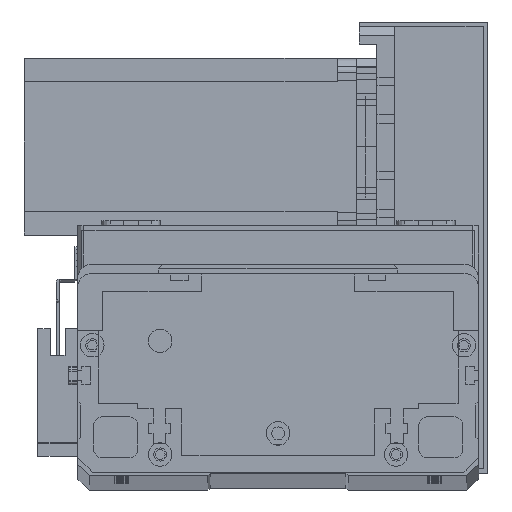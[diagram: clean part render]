
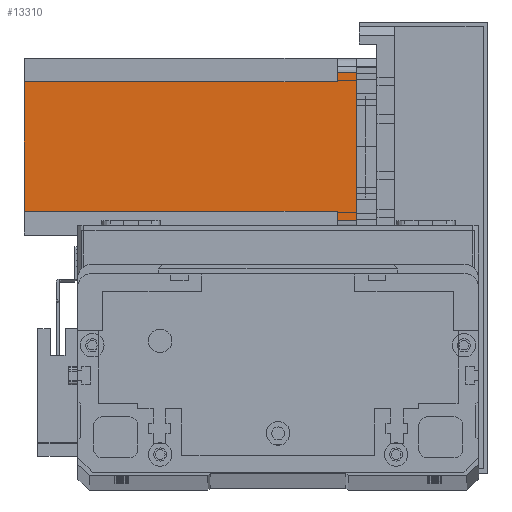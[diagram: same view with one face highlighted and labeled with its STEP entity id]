
A CAD part, top view. The second image highlights one B-rep face of the part: STEP entity #13310.
In plain terms, the highlighted planar face has unit normal (0, 0, 1) as drawn and (0, 1, 0) by its records, which use the part's own axes.
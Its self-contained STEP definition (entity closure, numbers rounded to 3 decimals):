
#250 = CARTESIAN_POINT ( 'NONE',  ( 0., 60., 0. ) ) ;
#294 = FACE_OUTER_BOUND ( 'NONE', #25007, .T. ) ;
#944 = AXIS2_PLACEMENT_3D ( 'NONE', #14108, #13903, #13865 ) ;
#1377 = VERTEX_POINT ( 'NONE', #7101 ) ;
#1673 = VECTOR ( 'NONE', #20344, 1000. ) ;
#1983 = CARTESIAN_POINT ( 'NONE',  ( 8., 60., -6.5 ) ) ;
#2003 = VERTEX_POINT ( 'NONE', #21385 ) ;
#2408 = LINE ( 'NONE', #17892, #26495 ) ;
#2757 = CARTESIAN_POINT ( 'NONE',  ( 8., 60., -112.5 ) ) ;
#2962 = CARTESIAN_POINT ( 'NONE',  ( 8., 60., -112.5 ) ) ;
#3098 = DIRECTION ( 'NONE',  ( 0., 0., -1. ) ) ;
#4126 = VECTOR ( 'NONE', #6357, 1000. ) ;
#4303 = LINE ( 'NONE', #17785, #22823 ) ;
#4954 = ORIENTED_EDGE ( 'NONE', *, *, #28767, .T. ) ;
#5284 = DIRECTION ( 'NONE',  ( -1., 0., 0. ) ) ;
#6357 = DIRECTION ( 'NONE',  ( -1., 0., 0. ) ) ;
#6370 = ORIENTED_EDGE ( 'NONE', *, *, #8140, .T. ) ;
#6596 = EDGE_CURVE ( 'NONE', #12179, #1377, #27245, .T. ) ;
#7087 = EDGE_CURVE ( 'NONE', #12179, #7221, #2408, .T. ) ;
#7101 = CARTESIAN_POINT ( 'NONE',  ( 52., 60., -6.5 ) ) ;
#7221 = VERTEX_POINT ( 'NONE', #2962 ) ;
#7934 = VERTEX_POINT ( 'NONE', #24806 ) ;
#8140 = EDGE_CURVE ( 'NONE', #2003, #7934, #4303, .T. ) ;
#8804 = VERTEX_POINT ( 'NONE', #10759 ) ;
#9380 = EDGE_CURVE ( 'NONE', #1377, #7934, #31033, .T. ) ;
#10759 = CARTESIAN_POINT ( 'NONE',  ( 5., 60., 0. ) ) ;
#11912 = VECTOR ( 'NONE', #3098, 1000. ) ;
#11930 = VERTEX_POINT ( 'NONE', #1983 ) ;
#12179 = VERTEX_POINT ( 'NONE', #29995 ) ;
#13310 = ADVANCED_FACE ( 'NONE', ( #294 ), #14105, .T. ) ;
#13735 = EDGE_CURVE ( 'NONE', #11930, #7221, #24555, .T. ) ;
#13865 = DIRECTION ( 'NONE',  ( 0., 0., 1. ) ) ;
#13903 = DIRECTION ( 'NONE',  ( 0., 1., 0. ) ) ;
#14105 = PLANE ( 'NONE',  #944 ) ;
#14108 = CARTESIAN_POINT ( 'NONE',  ( 0., 60., -112.5 ) ) ;
#16638 = LINE ( 'NONE', #250, #28370 ) ;
#17487 = DIRECTION ( 'NONE',  ( 0., 0., -1. ) ) ;
#17693 = DIRECTION ( 'NONE',  ( -1., 0., 0. ) ) ;
#17785 = CARTESIAN_POINT ( 'NONE',  ( 55., 60., -112.5 ) ) ;
#17892 = CARTESIAN_POINT ( 'NONE',  ( 0., 60., -112.5 ) ) ;
#18344 = ORIENTED_EDGE ( 'NONE', *, *, #9380, .F. ) ;
#18711 = VECTOR ( 'NONE', #28353, 1000. ) ;
#19040 = ORIENTED_EDGE ( 'NONE', *, *, #7087, .T. ) ;
#19626 = ORIENTED_EDGE ( 'NONE', *, *, #26979, .T. ) ;
#20246 = ORIENTED_EDGE ( 'NONE', *, *, #28582, .F. ) ;
#20344 = DIRECTION ( 'NONE',  ( 0., 0., 1. ) ) ;
#20385 = CARTESIAN_POINT ( 'NONE',  ( 5., 60., -112.5 ) ) ;
#21385 = CARTESIAN_POINT ( 'NONE',  ( 55., 60., 0. ) ) ;
#22653 = LINE ( 'NONE', #30261, #4126 ) ;
#22823 = VECTOR ( 'NONE', #17487, 1000. ) ;
#24555 = LINE ( 'NONE', #2757, #11912 ) ;
#24806 = CARTESIAN_POINT ( 'NONE',  ( 55., 60., -6.5 ) ) ;
#24924 = CARTESIAN_POINT ( 'NONE',  ( 52., 60., -112.5 ) ) ;
#24961 = ORIENTED_EDGE ( 'NONE', *, *, #6596, .F. ) ;
#25007 = EDGE_LOOP ( 'NONE', ( #20246, #6370, #18344, #24961, #19040, #30964, #19626, #4954 ) ) ;
#25141 = VERTEX_POINT ( 'NONE', #29915 ) ;
#25478 = VECTOR ( 'NONE', #27463, 1000. ) ;
#26495 = VECTOR ( 'NONE', #17693, 1000. ) ;
#26979 = EDGE_CURVE ( 'NONE', #11930, #25141, #22653, .T. ) ;
#27245 = LINE ( 'NONE', #24924, #1673 ) ;
#27463 = DIRECTION ( 'NONE',  ( 0., 0., 1. ) ) ;
#28330 = CARTESIAN_POINT ( 'NONE',  ( 52., 60., -6.5 ) ) ;
#28353 = DIRECTION ( 'NONE',  ( 1., 0., 0. ) ) ;
#28370 = VECTOR ( 'NONE', #5284, 1000. ) ;
#28582 = EDGE_CURVE ( 'NONE', #2003, #8804, #16638, .T. ) ;
#28767 = EDGE_CURVE ( 'NONE', #25141, #8804, #30135, .T. ) ;
#29915 = CARTESIAN_POINT ( 'NONE',  ( 5., 60., -6.5 ) ) ;
#29995 = CARTESIAN_POINT ( 'NONE',  ( 52., 60., -112.5 ) ) ;
#30135 = LINE ( 'NONE', #20385, #25478 ) ;
#30261 = CARTESIAN_POINT ( 'NONE',  ( 8., 60., -6.5 ) ) ;
#30964 = ORIENTED_EDGE ( 'NONE', *, *, #13735, .F. ) ;
#31033 = LINE ( 'NONE', #28330, #18711 ) ;
